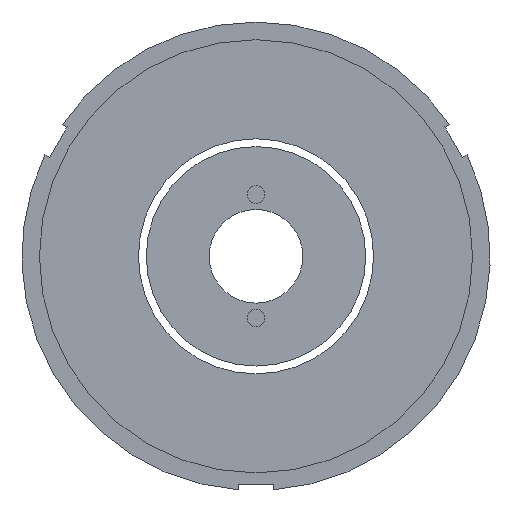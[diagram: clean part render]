
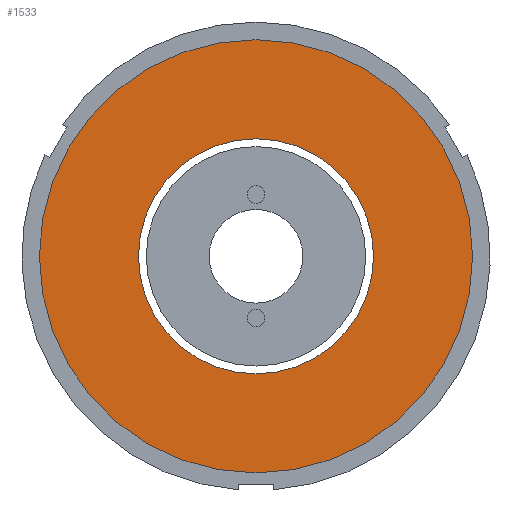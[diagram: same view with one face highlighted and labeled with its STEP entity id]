
A CAD part, front view. The second image highlights one B-rep face of the part: STEP entity #1533.
In plain terms, the highlighted planar face has unit normal (0, -1, 0).
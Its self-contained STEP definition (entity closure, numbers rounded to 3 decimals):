
#28 = VERTEX_POINT ( 'NONE', #865 ) ;
#71 = EDGE_CURVE ( 'NONE', #679, #28, #280, .T. ) ;
#87 = DIRECTION ( 'NONE',  ( 0., 1., 0. ) ) ;
#94 = CARTESIAN_POINT ( 'NONE',  ( 13.093, 8.428, 31.269 ) ) ;
#150 = ORIENTED_EDGE ( 'NONE', *, *, #1205, .T. ) ;
#280 = CIRCLE ( 'NONE', #1506, 18.5 ) ;
#321 = DIRECTION ( 'NONE',  ( 0., 0., 1. ) ) ;
#379 = CIRCLE ( 'NONE', #1288, 18.5 ) ;
#396 = CARTESIAN_POINT ( 'NONE',  ( 13.093, 8.428, 41.309 ) ) ;
#433 = FACE_BOUND ( 'NONE', #1198, .T. ) ;
#447 = PLANE ( 'NONE',  #452 ) ;
#452 = AXIS2_PLACEMENT_3D ( 'NONE', #94, #87, #321 ) ;
#545 = CARTESIAN_POINT ( 'NONE',  ( 13.093, 8.428, 21.229 ) ) ;
#569 = ORIENTED_EDGE ( 'NONE', *, *, #1021, .F. ) ;
#662 = DIRECTION ( 'NONE',  ( 0., 0., 1. ) ) ;
#674 = FACE_OUTER_BOUND ( 'NONE', #1539, .T. ) ;
#679 = VERTEX_POINT ( 'NONE', #1082 ) ;
#742 = CARTESIAN_POINT ( 'NONE',  ( 13.093, 8.428, 31.269 ) ) ;
#761 = EDGE_CURVE ( 'NONE', #864, #1437, #1083, .T. ) ;
#842 = CARTESIAN_POINT ( 'NONE',  ( 13.093, 8.428, 31.269 ) ) ;
#864 = VERTEX_POINT ( 'NONE', #396 ) ;
#865 = CARTESIAN_POINT ( 'NONE',  ( 13.093, 8.428, 12.769 ) ) ;
#877 = DIRECTION ( 'NONE',  ( 0., 0., 1. ) ) ;
#884 = CARTESIAN_POINT ( 'NONE',  ( 13.093, 8.428, 31.269 ) ) ;
#974 = AXIS2_PLACEMENT_3D ( 'NONE', #742, #1440, #1076 ) ;
#993 = DIRECTION ( 'NONE',  ( 0., 1., 0. ) ) ;
#1003 = CARTESIAN_POINT ( 'NONE',  ( 13.093, 8.428, 31.269 ) ) ;
#1021 = EDGE_CURVE ( 'NONE', #28, #679, #379, .T. ) ;
#1076 = DIRECTION ( 'NONE',  ( 0., 0., 1. ) ) ;
#1082 = CARTESIAN_POINT ( 'NONE',  ( 13.093, 8.428, 49.769 ) ) ;
#1083 = CIRCLE ( 'NONE', #974, 10.04 ) ;
#1156 = CIRCLE ( 'NONE', #1362, 10.04 ) ;
#1198 = EDGE_LOOP ( 'NONE', ( #150, #1538 ) ) ;
#1205 = EDGE_CURVE ( 'NONE', #1437, #864, #1156, .T. ) ;
#1288 = AXIS2_PLACEMENT_3D ( 'NONE', #884, #1476, #662 ) ;
#1326 = DIRECTION ( 'NONE',  ( 0., 1., 0. ) ) ;
#1362 = AXIS2_PLACEMENT_3D ( 'NONE', #842, #1326, #1461 ) ;
#1437 = VERTEX_POINT ( 'NONE', #545 ) ;
#1440 = DIRECTION ( 'NONE',  ( 0., 1., 0. ) ) ;
#1461 = DIRECTION ( 'NONE',  ( 0., 0., 1. ) ) ;
#1476 = DIRECTION ( 'NONE',  ( 0., 1., 0. ) ) ;
#1506 = AXIS2_PLACEMENT_3D ( 'NONE', #1003, #993, #877 ) ;
#1521 = ORIENTED_EDGE ( 'NONE', *, *, #71, .F. ) ;
#1533 = ADVANCED_FACE ( 'NONE', ( #674, #433 ), #447, .F. ) ;
#1538 = ORIENTED_EDGE ( 'NONE', *, *, #761, .T. ) ;
#1539 = EDGE_LOOP ( 'NONE', ( #569, #1521 ) ) ;
